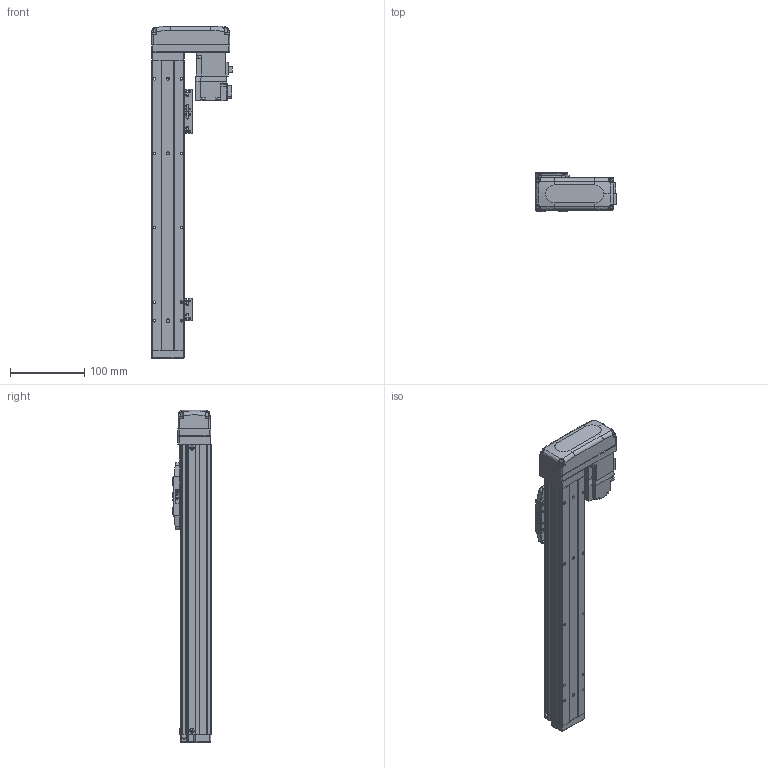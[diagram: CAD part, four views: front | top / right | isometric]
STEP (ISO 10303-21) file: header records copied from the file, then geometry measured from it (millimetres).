
FILE_DESCRIPTION (( 'STEP AP203' ), '1' );
FILE_NAME ('BTH40-200-BL-M05-C4.step', '2021-12-16T00:14:49', ( '微软用户' ), ( '微软中国' ), 'SwSTEP 2.0', 'SolidWorks 2020', '' );
FILE_SCHEMA (( 'CONFIG_CONTROL_DESIGN' ));
Length unit declared in the file: millimetre
Products named in the file (19): GBT70.1-2000 M3×16; GBT 70.1-M2.5×6; BTH40-200-BL-M05-C4; BTH50-028; BTH40-004; BTH50-023; BTH40-013; BTH40-001-50_BTH40-001-250; BTH50-024; HG-KR13; BTH40-003; GBT 70.1-M3℅6; GBT 70.3-M3℅6; BTH40-006; GBT96.1-2002 3×0.8; BTH40-027-1; BTH-M3X5X6; BTH40-022; BTH50-026
Assembly tree (47 placements, depth 2):
  BTH40-200-BL-M05-C4
    BTH40-001-50_BTH40-001-250
    BTH40-003
    BTH40-006
    BTH-M3X5X6  x8
    GBT70.1-2000 M3×16  x4
    BTH50-028  x2
    BTH50-023  x3
    BTH50-024  x3
    GBT 70.1-M3℅6  x6
    GBT96.1-2002 3×0.8  x6
    BTH40-022
    GBT 70.1-M2.5×6  x2
    BTH40-004
    BTH40-013
    HG-KR13
    GBT 70.3-M3℅6  x4
    BTH40-027-1
    BTH50-026
Bounding box: 108.8 x 52 x 446 mm (x, y, z)
Volume: 909482.8 mm3; surface area: 176656.9 mm2
Topology: 49 solids, 49 shells, 1975 faces, 4635 edges, 2850 vertices
Faces by surface type: plane 1052, cylinder 487, cone 270, torus 128, bspline 34, sphere 4
Entity records: 39395 total; most frequent: CARTESIAN_POINT 7546, DIRECTION 6168, ORIENTED_EDGE 5916, EDGE_CURVE 2958, AXIS2_PLACEMENT_3D 2107, LINE 1954, VECTOR 1954, VERTEX_POINT 1837
